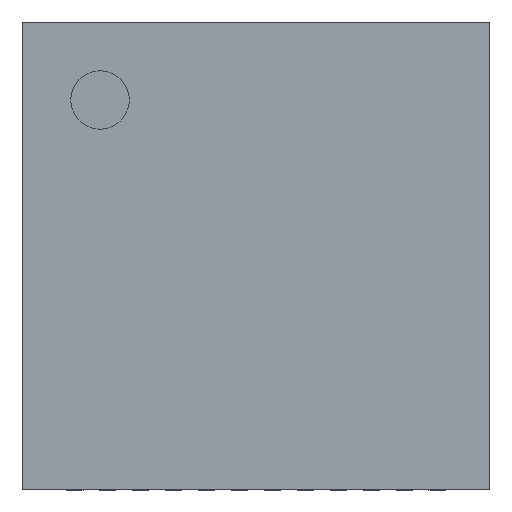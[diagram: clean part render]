
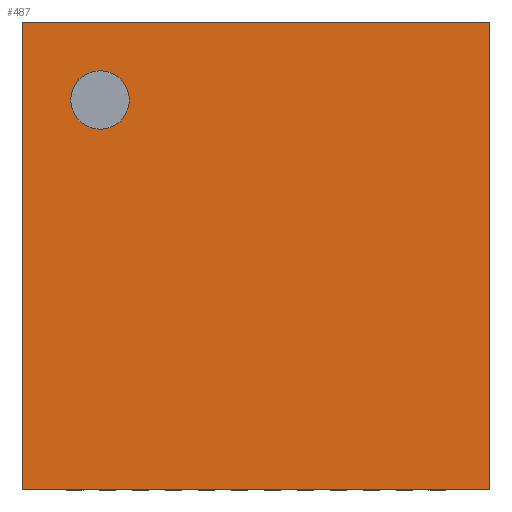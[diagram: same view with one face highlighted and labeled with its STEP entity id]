
A CAD part, top view. The second image highlights one B-rep face of the part: STEP entity #487.
In plain terms, the highlighted planar face has unit normal (0, 0, 1).
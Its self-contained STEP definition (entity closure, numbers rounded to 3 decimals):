
#298 = VERTEX_POINT('',#299);
#299 = CARTESIAN_POINT('',(0.,0.,0.6));
#306 = PLANE('',#307);
#307 = AXIS2_PLACEMENT_3D('',#308,#309,#310);
#308 = CARTESIAN_POINT('',(0.,0.,0.));
#309 = DIRECTION('',(1.,0.,-0.));
#310 = DIRECTION('',(0.,0.,1.));
#318 = PLANE('',#319);
#319 = AXIS2_PLACEMENT_3D('',#320,#321,#322);
#320 = CARTESIAN_POINT('',(0.,0.,0.));
#321 = DIRECTION('',(-0.,1.,0.));
#322 = DIRECTION('',(0.,0.,1.));
#359 = VERTEX_POINT('',#360);
#360 = CARTESIAN_POINT('',(0.,7.1,0.6));
#374 = PLANE('',#375);
#375 = AXIS2_PLACEMENT_3D('',#376,#377,#378);
#376 = CARTESIAN_POINT('',(0.,7.1,0.));
#377 = DIRECTION('',(-0.,1.,0.));
#378 = DIRECTION('',(0.,0.,1.));
#386 = EDGE_CURVE('',#298,#359,#387,.T.);
#387 = SURFACE_CURVE('',#388,(#392,#399),.PCURVE_S1.);
#388 = LINE('',#389,#390);
#389 = CARTESIAN_POINT('',(0.,0.,0.6));
#390 = VECTOR('',#391,1.);
#391 = DIRECTION('',(-0.,1.,0.));
#392 = PCURVE('',#306,#393);
#393 = DEFINITIONAL_REPRESENTATION('',(#394),#398);
#394 = LINE('',#395,#396);
#395 = CARTESIAN_POINT('',(0.6,0.));
#396 = VECTOR('',#397,1.);
#397 = DIRECTION('',(0.,-1.));
#398 = ( GEOMETRIC_REPRESENTATION_CONTEXT(2) 
PARAMETRIC_REPRESENTATION_CONTEXT() REPRESENTATION_CONTEXT('2D SPACE',''
  ) );
#399 = PCURVE('',#400,#405);
#400 = PLANE('',#401);
#401 = AXIS2_PLACEMENT_3D('',#402,#403,#404);
#402 = CARTESIAN_POINT('',(0.,0.,0.6));
#403 = DIRECTION('',(0.,0.,1.));
#404 = DIRECTION('',(1.,0.,-0.));
#405 = DEFINITIONAL_REPRESENTATION('',(#406),#410);
#406 = LINE('',#407,#408);
#407 = CARTESIAN_POINT('',(0.,0.));
#408 = VECTOR('',#409,1.);
#409 = DIRECTION('',(0.,1.));
#410 = ( GEOMETRIC_REPRESENTATION_CONTEXT(2) 
PARAMETRIC_REPRESENTATION_CONTEXT() REPRESENTATION_CONTEXT('2D SPACE',''
  ) );
#439 = EDGE_CURVE('',#298,#440,#442,.T.);
#440 = VERTEX_POINT('',#441);
#441 = CARTESIAN_POINT('',(7.1,0.,0.6));
#442 = SURFACE_CURVE('',#443,(#447,#454),.PCURVE_S1.);
#443 = LINE('',#444,#445);
#444 = CARTESIAN_POINT('',(0.,0.,0.6));
#445 = VECTOR('',#446,1.);
#446 = DIRECTION('',(1.,0.,-0.));
#447 = PCURVE('',#318,#448);
#448 = DEFINITIONAL_REPRESENTATION('',(#449),#453);
#449 = LINE('',#450,#451);
#450 = CARTESIAN_POINT('',(0.6,0.));
#451 = VECTOR('',#452,1.);
#452 = DIRECTION('',(0.,1.));
#453 = ( GEOMETRIC_REPRESENTATION_CONTEXT(2) 
PARAMETRIC_REPRESENTATION_CONTEXT() REPRESENTATION_CONTEXT('2D SPACE',''
  ) );
#454 = PCURVE('',#400,#455);
#455 = DEFINITIONAL_REPRESENTATION('',(#456),#460);
#456 = LINE('',#457,#458);
#457 = CARTESIAN_POINT('',(0.,0.));
#458 = VECTOR('',#459,1.);
#459 = DIRECTION('',(1.,0.));
#460 = ( GEOMETRIC_REPRESENTATION_CONTEXT(2) 
PARAMETRIC_REPRESENTATION_CONTEXT() REPRESENTATION_CONTEXT('2D SPACE',''
  ) );
#476 = PLANE('',#477);
#477 = AXIS2_PLACEMENT_3D('',#478,#479,#480);
#478 = CARTESIAN_POINT('',(7.1,0.,0.));
#479 = DIRECTION('',(1.,0.,-0.));
#480 = DIRECTION('',(0.,0.,1.));
#487 = ADVANCED_FACE('',(#488,#536),#400,.T.);
#488 = FACE_BOUND('',#489,.T.);
#489 = EDGE_LOOP('',(#490,#491,#492,#515));
#490 = ORIENTED_EDGE('',*,*,#386,.F.);
#491 = ORIENTED_EDGE('',*,*,#439,.T.);
#492 = ORIENTED_EDGE('',*,*,#493,.T.);
#493 = EDGE_CURVE('',#440,#494,#496,.T.);
#494 = VERTEX_POINT('',#495);
#495 = CARTESIAN_POINT('',(7.1,7.1,0.6));
#496 = SURFACE_CURVE('',#497,(#501,#508),.PCURVE_S1.);
#497 = LINE('',#498,#499);
#498 = CARTESIAN_POINT('',(7.1,0.,0.6));
#499 = VECTOR('',#500,1.);
#500 = DIRECTION('',(-0.,1.,0.));
#501 = PCURVE('',#400,#502);
#502 = DEFINITIONAL_REPRESENTATION('',(#503),#507);
#503 = LINE('',#504,#505);
#504 = CARTESIAN_POINT('',(7.1,0.));
#505 = VECTOR('',#506,1.);
#506 = DIRECTION('',(0.,1.));
#507 = ( GEOMETRIC_REPRESENTATION_CONTEXT(2) 
PARAMETRIC_REPRESENTATION_CONTEXT() REPRESENTATION_CONTEXT('2D SPACE',''
  ) );
#508 = PCURVE('',#476,#509);
#509 = DEFINITIONAL_REPRESENTATION('',(#510),#514);
#510 = LINE('',#511,#512);
#511 = CARTESIAN_POINT('',(0.6,0.));
#512 = VECTOR('',#513,1.);
#513 = DIRECTION('',(0.,-1.));
#514 = ( GEOMETRIC_REPRESENTATION_CONTEXT(2) 
PARAMETRIC_REPRESENTATION_CONTEXT() REPRESENTATION_CONTEXT('2D SPACE',''
  ) );
#515 = ORIENTED_EDGE('',*,*,#516,.F.);
#516 = EDGE_CURVE('',#359,#494,#517,.T.);
#517 = SURFACE_CURVE('',#518,(#522,#529),.PCURVE_S1.);
#518 = LINE('',#519,#520);
#519 = CARTESIAN_POINT('',(0.,7.1,0.6));
#520 = VECTOR('',#521,1.);
#521 = DIRECTION('',(1.,0.,-0.));
#522 = PCURVE('',#400,#523);
#523 = DEFINITIONAL_REPRESENTATION('',(#524),#528);
#524 = LINE('',#525,#526);
#525 = CARTESIAN_POINT('',(0.,7.1));
#526 = VECTOR('',#527,1.);
#527 = DIRECTION('',(1.,0.));
#528 = ( GEOMETRIC_REPRESENTATION_CONTEXT(2) 
PARAMETRIC_REPRESENTATION_CONTEXT() REPRESENTATION_CONTEXT('2D SPACE',''
  ) );
#529 = PCURVE('',#374,#530);
#530 = DEFINITIONAL_REPRESENTATION('',(#531),#535);
#531 = LINE('',#532,#533);
#532 = CARTESIAN_POINT('',(0.6,0.));
#533 = VECTOR('',#534,1.);
#534 = DIRECTION('',(0.,1.));
#535 = ( GEOMETRIC_REPRESENTATION_CONTEXT(2) 
PARAMETRIC_REPRESENTATION_CONTEXT() REPRESENTATION_CONTEXT('2D SPACE',''
  ) );
#536 = FACE_BOUND('',#537,.T.);
#537 = EDGE_LOOP('',(#538));
#538 = ORIENTED_EDGE('',*,*,#539,.F.);
#539 = EDGE_CURVE('',#540,#540,#542,.T.);
#540 = VERTEX_POINT('',#541);
#541 = CARTESIAN_POINT('',(1.627,5.917,0.6));
#542 = SURFACE_CURVE('',#543,(#548,#555),.PCURVE_S1.);
#543 = CIRCLE('',#544,0.444);
#544 = AXIS2_PLACEMENT_3D('',#545,#546,#547);
#545 = CARTESIAN_POINT('',(1.183,5.917,0.6));
#546 = DIRECTION('',(0.,0.,1.));
#547 = DIRECTION('',(1.,0.,-0.));
#548 = PCURVE('',#400,#549);
#549 = DEFINITIONAL_REPRESENTATION('',(#550),#554);
#550 = CIRCLE('',#551,0.444);
#551 = AXIS2_PLACEMENT_2D('',#552,#553);
#552 = CARTESIAN_POINT('',(1.183,5.917));
#553 = DIRECTION('',(1.,0.));
#554 = ( GEOMETRIC_REPRESENTATION_CONTEXT(2) 
PARAMETRIC_REPRESENTATION_CONTEXT() REPRESENTATION_CONTEXT('2D SPACE',''
  ) );
#555 = PCURVE('',#556,#561);
#556 = CYLINDRICAL_SURFACE('',#557,0.444);
#557 = AXIS2_PLACEMENT_3D('',#558,#559,#560);
#558 = CARTESIAN_POINT('',(1.183,5.917,0.5));
#559 = DIRECTION('',(0.,0.,1.));
#560 = DIRECTION('',(1.,0.,-0.));
#561 = DEFINITIONAL_REPRESENTATION('',(#562),#566);
#562 = LINE('',#563,#564);
#563 = CARTESIAN_POINT('',(0.,0.1));
#564 = VECTOR('',#565,1.);
#565 = DIRECTION('',(1.,0.));
#566 = ( GEOMETRIC_REPRESENTATION_CONTEXT(2) 
PARAMETRIC_REPRESENTATION_CONTEXT() REPRESENTATION_CONTEXT('2D SPACE',''
  ) );
